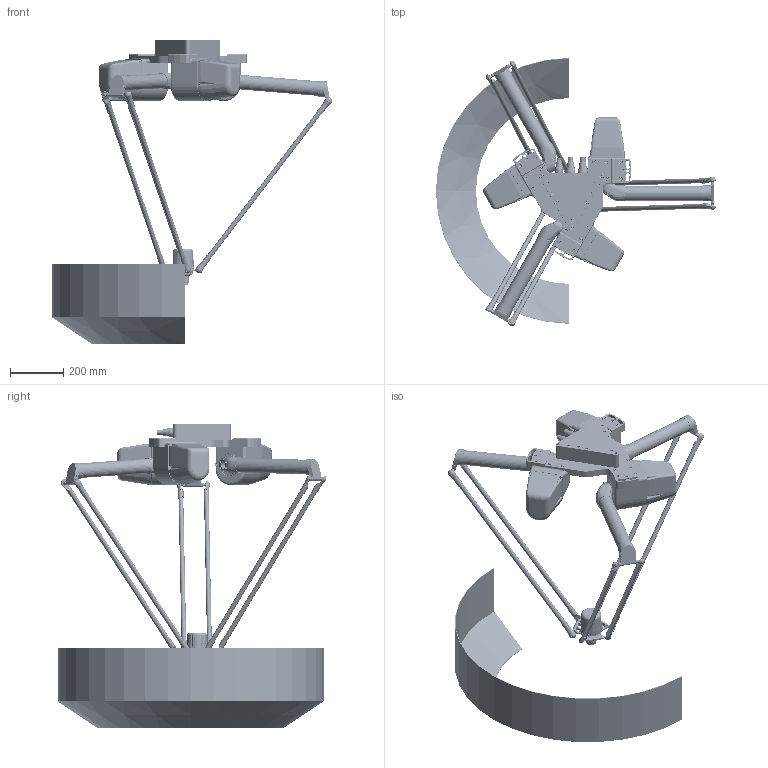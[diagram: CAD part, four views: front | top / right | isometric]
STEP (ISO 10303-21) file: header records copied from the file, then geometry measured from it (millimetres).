
FILE_DESCRIPTION (( 'STEP AP214' ), '1' );
FILE_NAME ('阹陎暱P100J-03-H.STEP', '2020-12-02T08:03:57', ( '' ), ( '' ), 'SwSTEP 2.0', 'SolidWorks 2016', '' );
FILE_SCHEMA (( 'AUTOMOTIVE_DESIGN' ));
Length unit declared in the file: millimetre
Products named in the file (9): 阹陎暱P100J-03-H.sldasm-Part-8; 阹陎暱P100J-03-H; 阹陎暱P100J-03-H.sldasm-Part-3; 阹陎暱P100J-03-H.sldasm-Part-2; 阹陎暱P100J-03-H.sldasm-Part-7; 阹陎暱P100J-03-H.sldasm-Part-6; 阹陎暱P100J-03-H.sldasm-Part-5; 阹陎暱P100J-03-H.sldasm-Part-1; 阹陎暱P100J-03-H.sldasm-Part-4
Assembly tree (22 placements, depth 2):
  阹陎暱P100J-03-H
    阹陎暱P100J-03-H.sldasm-Part-1
    阹陎暱P100J-03-H.sldasm-Part-2
    阹陎暱P100J-03-H.sldasm-Part-3  x3
    阹陎暱P100J-03-H.sldasm-Part-4  x3
    阹陎暱P100J-03-H.sldasm-Part-5  x6
    阹陎暱P100J-03-H.sldasm-Part-6  x6
    阹陎暱P100J-03-H.sldasm-Part-7
    阹陎暱P100J-03-H.sldasm-Part-8
Bounding box: 1054.04 x 1009.91 x 1143.64 mm (x, y, z)
Volume: 13118030.9 mm3; surface area: 3409631 mm2
Topology: 22 solids, 149 shells, 7646 faces, 18604 edges, 11492 vertices
Faces by surface type: cylinder 2603, plane 2577, cone 1116, torus 676, bspline 601, sphere 73
Entity records: 247866 total; most frequent: CARTESIAN_POINT 60015, DIRECTION 33232, ORIENTED_EDGE 31544, EDGE_CURVE 15772, AXIS2_PLACEMENT_3D 13269, VERTEX_POINT 9914, EDGE_LOOP 7324, CIRCLE 7075
